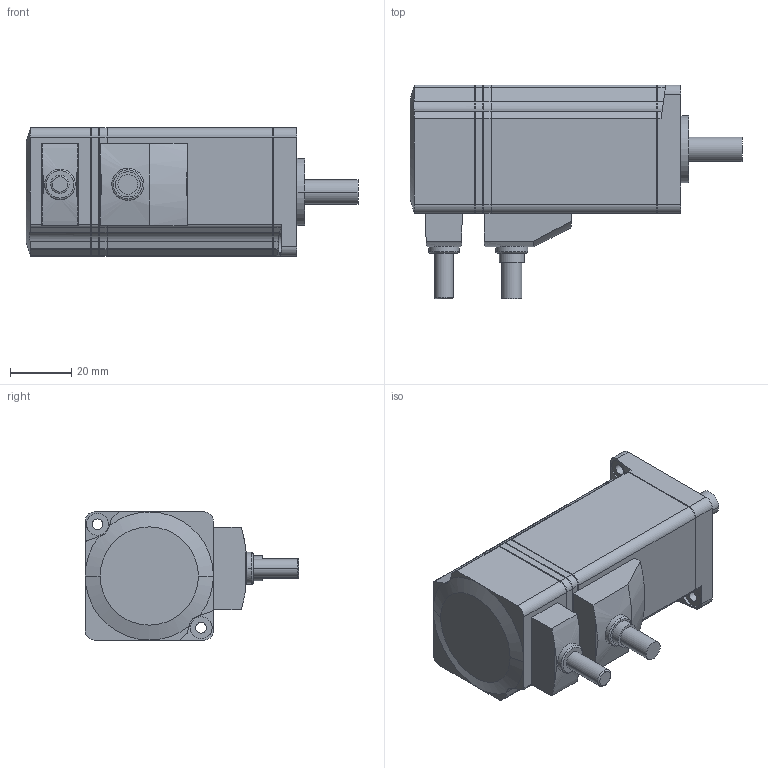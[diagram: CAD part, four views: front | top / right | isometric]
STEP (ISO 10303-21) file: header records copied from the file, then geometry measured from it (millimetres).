
FILE_DESCRIPTION( ( '' ), '1' );
FILE_NAME( '//partserver001.servicenet/client_exchange/iodir/jobs/output/wkb40001942_no0/STEP/nx410aa_1_0__2_03.stp', '2011-12-12T08:16:45', ( '' ), ( '' ), ' ', ' ', ' ' );
FILE_SCHEMA( ( 'CONFIG_CONTROL_DESIGN' ) );
Length unit declared in the file: millimetre
Products named in the file (1): 1
Bounding box: 108.8 x 70 x 42 mm (x, y, z)
Volume: 155649.6 mm3; surface area: 21077.7 mm2
Topology: 1 solids, 1 shells, 263 faces, 726 edges, 479 vertices
Faces by surface type: plane 138, cylinder 108, cone 11, torus 6
Entity records: 8652 total; most frequent: CARTESIAN_POINT 1709, DIRECTION 1470, ORIENTED_EDGE 1444, EDGE_CURVE 722, AXIS2_PLACEMENT_3D 506, VERTEX_POINT 479, LINE 458, VECTOR 458
